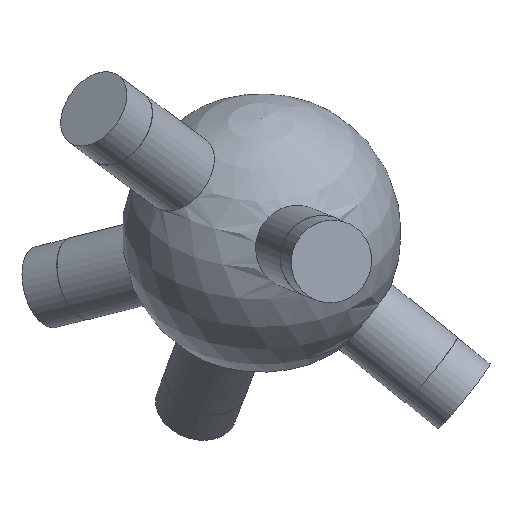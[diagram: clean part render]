
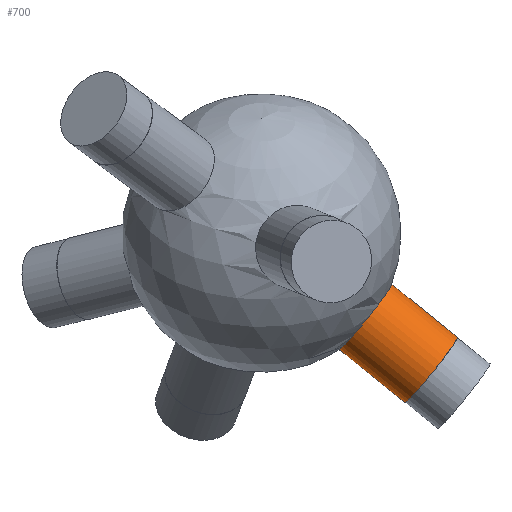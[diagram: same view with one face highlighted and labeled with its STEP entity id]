
A CAD part, isometric view. The second image highlights one B-rep face of the part: STEP entity #700.
In plain terms, the highlighted cylindrical face has radius 6 mm (diameter 12 mm), a full revolution.
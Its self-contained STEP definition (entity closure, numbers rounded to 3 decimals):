
#35 = SPHERICAL_SURFACE('',#36,20.);
#36 = AXIS2_PLACEMENT_3D('',#37,#38,#39);
#37 = CARTESIAN_POINT('',(0.,0.,0.));
#38 = DIRECTION('',(0.,0.,1.));
#39 = DIRECTION('',(1.,0.,-0.));
#293 = EDGE_CURVE('',#294,#294,#296,.T.);
#294 = VERTEX_POINT('',#295);
#295 = CARTESIAN_POINT('',(6.305,-11.168,
    -15.347));
#296 = SURFACE_CURVE('',#297,(#302,#378),.PCURVE_S1.);
#297 = CIRCLE('',#298,6.);
#298 = AXIS2_PLACEMENT_3D('',#299,#300,#301);
#299 = CARTESIAN_POINT('',(6.305,-14.655,
    -10.464));
#300 = DIRECTION('',(0.33,-0.768,-0.548));
#301 = DIRECTION('',(0.,0.581,-0.814));
#302 = PCURVE('',#35,#303);
#303 = DEFINITIONAL_REPRESENTATION('',(#304),#377);
#304 = B_SPLINE_CURVE_WITH_KNOTS('',8,(#305,#306,#307,#308,#309,#310,
    #311,#312,#313,#314,#315,#316,#317,#318,#319,#320,#321,#322,#323,
    #324,#325,#326,#327,#328,#329,#330,#331,#332,#333,#334,#335,#336,
    #337,#338,#339,#340,#341,#342,#343,#344,#345,#346,#347,#348,#349,
    #350,#351,#352,#353,#354,#355,#356,#357,#358,#359,#360,#361,#362,
    #363,#364,#365,#366,#367,#368,#369,#370,#371,#372,#373,#374,#375,
    #376),.UNSPECIFIED.,.F.,.F.,(9,7,7,7,7,7,7,7,7,7,9),(0.,
    0.393,1.129,1.773,2.901,
    3.746,4.381,4.856,5.57,
    5.926,6.283),.UNSPECIFIED.);
#305 = CARTESIAN_POINT('',(5.226,-0.875));
#306 = CARTESIAN_POINT('',(5.248,-0.87));
#307 = CARTESIAN_POINT('',(5.269,-0.865));
#308 = CARTESIAN_POINT('',(5.29,-0.858));
#309 = CARTESIAN_POINT('',(5.31,-0.851));
#310 = CARTESIAN_POINT('',(5.328,-0.843));
#311 = CARTESIAN_POINT('',(5.346,-0.834));
#312 = CARTESIAN_POINT('',(5.362,-0.824));
#313 = CARTESIAN_POINT('',(5.405,-0.794));
#314 = CARTESIAN_POINT('',(5.429,-0.772));
#315 = CARTESIAN_POINT('',(5.449,-0.748));
#316 = CARTESIAN_POINT('',(5.464,-0.722));
#317 = CARTESIAN_POINT('',(5.475,-0.696));
#318 = CARTESIAN_POINT('',(5.482,-0.668));
#319 = CARTESIAN_POINT('',(5.486,-0.641));
#320 = CARTESIAN_POINT('',(5.486,-0.589));
#321 = CARTESIAN_POINT('',(5.483,-0.565));
#322 = CARTESIAN_POINT('',(5.478,-0.541));
#323 = CARTESIAN_POINT('',(5.471,-0.517));
#324 = CARTESIAN_POINT('',(5.462,-0.494));
#325 = CARTESIAN_POINT('',(5.451,-0.472));
#326 = CARTESIAN_POINT('',(5.438,-0.451));
#327 = CARTESIAN_POINT('',(5.397,-0.396));
#328 = CARTESIAN_POINT('',(5.367,-0.364));
#329 = CARTESIAN_POINT('',(5.332,-0.336));
#330 = CARTESIAN_POINT('',(5.293,-0.312));
#331 = CARTESIAN_POINT('',(5.252,-0.295));
#332 = CARTESIAN_POINT('',(5.209,-0.282));
#333 = CARTESIAN_POINT('',(5.165,-0.276));
#334 = CARTESIAN_POINT('',(5.089,-0.276));
#335 = CARTESIAN_POINT('',(5.056,-0.279));
#336 = CARTESIAN_POINT('',(5.023,-0.285));
#337 = CARTESIAN_POINT('',(4.991,-0.295));
#338 = CARTESIAN_POINT('',(4.96,-0.308));
#339 = CARTESIAN_POINT('',(4.931,-0.323));
#340 = CARTESIAN_POINT('',(4.904,-0.342));
#341 = CARTESIAN_POINT('',(4.859,-0.379));
#342 = CARTESIAN_POINT('',(4.841,-0.396));
#343 = CARTESIAN_POINT('',(4.825,-0.414));
#344 = CARTESIAN_POINT('',(4.81,-0.434));
#345 = CARTESIAN_POINT('',(4.796,-0.455));
#346 = CARTESIAN_POINT('',(4.785,-0.476));
#347 = CARTESIAN_POINT('',(4.775,-0.499));
#348 = CARTESIAN_POINT('',(4.761,-0.539));
#349 = CARTESIAN_POINT('',(4.757,-0.556));
#350 = CARTESIAN_POINT('',(4.753,-0.574));
#351 = CARTESIAN_POINT('',(4.751,-0.591));
#352 = CARTESIAN_POINT('',(4.75,-0.609));
#353 = CARTESIAN_POINT('',(4.751,-0.627));
#354 = CARTESIAN_POINT('',(4.753,-0.645));
#355 = CARTESIAN_POINT('',(4.762,-0.689));
#356 = CARTESIAN_POINT('',(4.771,-0.715));
#357 = CARTESIAN_POINT('',(4.784,-0.74));
#358 = CARTESIAN_POINT('',(4.801,-0.764));
#359 = CARTESIAN_POINT('',(4.822,-0.787));
#360 = CARTESIAN_POINT('',(4.847,-0.807));
#361 = CARTESIAN_POINT('',(4.876,-0.826));
#362 = CARTESIAN_POINT('',(4.925,-0.849));
#363 = CARTESIAN_POINT('',(4.942,-0.856));
#364 = CARTESIAN_POINT('',(4.96,-0.862));
#365 = CARTESIAN_POINT('',(4.979,-0.868));
#366 = CARTESIAN_POINT('',(4.998,-0.873));
#367 = CARTESIAN_POINT('',(5.019,-0.877));
#368 = CARTESIAN_POINT('',(5.039,-0.88));
#369 = CARTESIAN_POINT('',(5.081,-0.884));
#370 = CARTESIAN_POINT('',(5.102,-0.886));
#371 = CARTESIAN_POINT('',(5.123,-0.886));
#372 = CARTESIAN_POINT('',(5.144,-0.886));
#373 = CARTESIAN_POINT('',(5.165,-0.884));
#374 = CARTESIAN_POINT('',(5.186,-0.882));
#375 = CARTESIAN_POINT('',(5.206,-0.879));
#376 = CARTESIAN_POINT('',(5.226,-0.875));
#377 = ( GEOMETRIC_REPRESENTATION_CONTEXT(2) 
PARAMETRIC_REPRESENTATION_CONTEXT() REPRESENTATION_CONTEXT('2D SPACE',''
  ) );
#378 = PCURVE('',#379,#384);
#379 = CYLINDRICAL_SURFACE('',#380,6.);
#380 = AXIS2_PLACEMENT_3D('',#381,#382,#383);
#381 = CARTESIAN_POINT('',(0.,0.,0.));
#382 = DIRECTION('',(0.33,-0.768,-0.548));
#383 = DIRECTION('',(0.,0.581,-0.814));
#384 = DEFINITIONAL_REPRESENTATION('',(#385),#389);
#385 = LINE('',#386,#387);
#386 = CARTESIAN_POINT('',(0.,19.079));
#387 = VECTOR('',#388,1.);
#388 = DIRECTION('',(1.,0.));
#389 = ( GEOMETRIC_REPRESENTATION_CONTEXT(2) 
PARAMETRIC_REPRESENTATION_CONTEXT() REPRESENTATION_CONTEXT('2D SPACE',''
  ) );
#700 = ADVANCED_FACE('',(#701),#379,.T.);
#701 = FACE_BOUND('',#702,.T.);
#702 = EDGE_LOOP('',(#703,#726,#753,#754));
#703 = ORIENTED_EDGE('',*,*,#704,.T.);
#704 = EDGE_CURVE('',#294,#705,#707,.T.);
#705 = VERTEX_POINT('',#706);
#706 = CARTESIAN_POINT('',(10.309,-20.476,-21.992)
  );
#707 = SEAM_CURVE('',#708,(#712,#719),.PCURVE_S1.);
#708 = LINE('',#709,#710);
#709 = CARTESIAN_POINT('',(0.,3.487,
    -4.883));
#710 = VECTOR('',#711,1.);
#711 = DIRECTION('',(0.33,-0.768,-0.548));
#712 = PCURVE('',#379,#713);
#713 = DEFINITIONAL_REPRESENTATION('',(#714),#718);
#714 = LINE('',#715,#716);
#715 = CARTESIAN_POINT('',(6.283,-0.));
#716 = VECTOR('',#717,1.);
#717 = DIRECTION('',(0.,1.));
#718 = ( GEOMETRIC_REPRESENTATION_CONTEXT(2) 
PARAMETRIC_REPRESENTATION_CONTEXT() REPRESENTATION_CONTEXT('2D SPACE',''
  ) );
#719 = PCURVE('',#379,#720);
#720 = DEFINITIONAL_REPRESENTATION('',(#721),#725);
#721 = LINE('',#722,#723);
#722 = CARTESIAN_POINT('',(0.,-0.));
#723 = VECTOR('',#724,1.);
#724 = DIRECTION('',(0.,1.));
#725 = ( GEOMETRIC_REPRESENTATION_CONTEXT(2) 
PARAMETRIC_REPRESENTATION_CONTEXT() REPRESENTATION_CONTEXT('2D SPACE',''
  ) );
#726 = ORIENTED_EDGE('',*,*,#727,.F.);
#727 = EDGE_CURVE('',#705,#705,#728,.T.);
#728 = SURFACE_CURVE('',#729,(#734,#741),.PCURVE_S1.);
#729 = CIRCLE('',#730,6.);
#730 = AXIS2_PLACEMENT_3D('',#731,#732,#733);
#731 = CARTESIAN_POINT('',(10.309,-23.962,
    -17.109));
#732 = DIRECTION('',(0.33,-0.768,-0.548));
#733 = DIRECTION('',(0.,0.581,-0.814));
#734 = PCURVE('',#379,#735);
#735 = DEFINITIONAL_REPRESENTATION('',(#736),#740);
#736 = LINE('',#737,#738);
#737 = CARTESIAN_POINT('',(0.,31.196));
#738 = VECTOR('',#739,1.);
#739 = DIRECTION('',(1.,0.));
#740 = ( GEOMETRIC_REPRESENTATION_CONTEXT(2) 
PARAMETRIC_REPRESENTATION_CONTEXT() REPRESENTATION_CONTEXT('2D SPACE',''
  ) );
#741 = PCURVE('',#742,#747);
#742 = PLANE('',#743);
#743 = AXIS2_PLACEMENT_3D('',#744,#745,#746);
#744 = CARTESIAN_POINT('',(10.309,-23.962,
    -17.109));
#745 = DIRECTION('',(0.33,-0.768,-0.548));
#746 = DIRECTION('',(0.,0.581,-0.814));
#747 = DEFINITIONAL_REPRESENTATION('',(#748),#752);
#748 = CIRCLE('',#749,6.);
#749 = AXIS2_PLACEMENT_2D('',#750,#751);
#750 = CARTESIAN_POINT('',(0.,0.));
#751 = DIRECTION('',(1.,0.));
#752 = ( GEOMETRIC_REPRESENTATION_CONTEXT(2) 
PARAMETRIC_REPRESENTATION_CONTEXT() REPRESENTATION_CONTEXT('2D SPACE',''
  ) );
#753 = ORIENTED_EDGE('',*,*,#704,.F.);
#754 = ORIENTED_EDGE('',*,*,#293,.T.);
